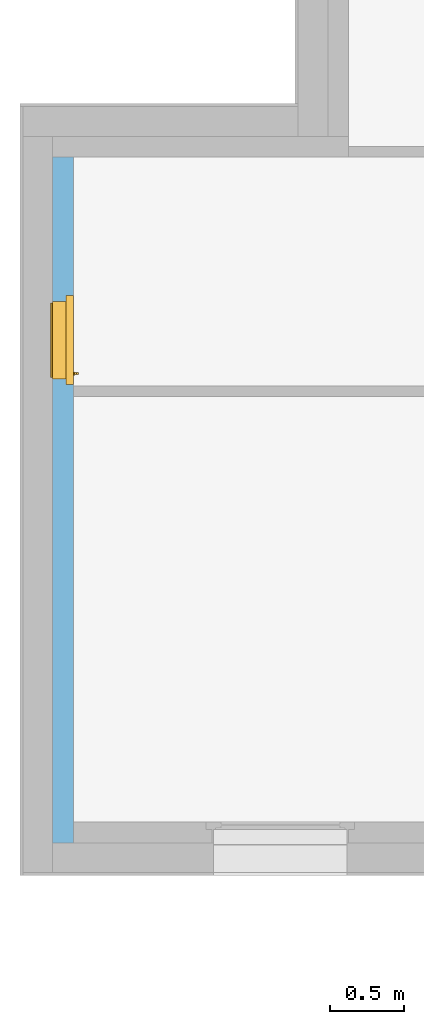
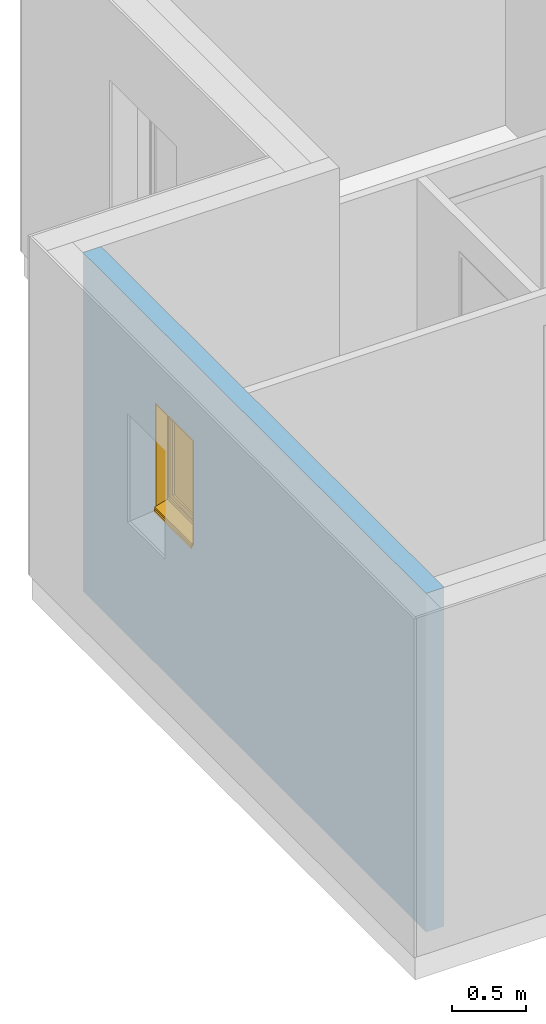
"""IFC2X3 building model written with IfcOpenShell, lengths in centimetres."""

import ifcopenshell
import ifcopenshell.guid

model = None  # the IFC model being written
_history = None  # IfcOwnerHistory: only IFC2X3 demands one
_inside = {}  # id of a spatial element -> (the spatial element, [elements in it])
_under = {}  # id of a project, library or spatial element -> (it, [spatial elements below it])
_declared = {}  # id of a project -> (the project, [libraries it declares])
_typed = {}  # id of a type object -> (the type object, [elements of that type])
_made_of = {}  # id of a material, layer set ... -> (it, [elements and type objects made of it])


def new_model(schema):
    """Start an empty IFC model of exactly this schema.

    Asked for "IFC4X3", IfcOpenShell would pick the latest addendum, in which some entities
    have other attributes; the version numbers below select the first issue.
    IFC2X3 requires an IfcOwnerHistory on every rooted entity: one is made here for all.
    """
    global model, _history
    if schema == "IFC4X3":
        model = ifcopenshell.file(schema_version=(4, 3, 0, 0))
    else:
        model = ifcopenshell.file(schema=schema)
    _inside.clear()
    _under.clear()
    _declared.clear()
    _typed.clear()
    _made_of.clear()
    _history = None
    if model.schema == "IFC2X3":
        org = make("IfcOrganization", Name="unknown")
        user = make(
            "IfcPersonAndOrganization",
            ThePerson=make("IfcPerson", FamilyName="unknown"),
            TheOrganization=org,
        )
        app = make(
            "IfcApplication",
            ApplicationDeveloper=org,
            Version="unknown",
            ApplicationFullName="unknown",
            ApplicationIdentifier="unknown",
        )
        _history = make(
            "IfcOwnerHistory",
            OwningUser=user,
            OwningApplication=app,
            ChangeAction="ADDED",
            CreationDate=0,
        )
    return model


def make(cls, **values):
    """One entity of the class cls with the attributes given. An attribute that is None is left unset."""
    return model.create_entity(
        cls, **{name: value for name, value in values.items() if value is not None}
    )


def entity(cls, *values):
    """Any entity or typed value of the class cls, its attributes in the order of the schema. None: left unset."""
    e = model.create_entity(cls)
    for i, value in enumerate(values):
        if value is not None:
            e[i] = value
    return e


def rooted(cls, **values):
    """An entity with a GlobalId (a new one), such as an element, a storey or a relation."""
    return make(cls, GlobalId=ifcopenshell.guid.new(), OwnerHistory=_history, **values)


def si_unit(unit_type, name, prefix=None):
    """IfcSIUnit, for example si_unit("LENGTHUNIT", "METRE", prefix="MILLI")."""
    return make("IfcSIUnit", UnitType=unit_type, Prefix=prefix, Name=name)


def converted_unit(unit_type, name, factor, base, dimensions=None, offset=None):
    """IfcConversionBasedUnit, such as the inch: factor (a typed value) times the base unit."""
    return make(
        "IfcConversionBasedUnit"
        if offset is None
        else "IfcConversionBasedUnitWithOffset",
        ConversionOffset=offset,
        Dimensions=None
        if dimensions is None
        else entity("IfcDimensionalExponents", *dimensions),
        UnitType=unit_type,
        Name=name,
        ConversionFactor=make(
            "IfcMeasureWithUnit", ValueComponent=factor, UnitComponent=base
        ),
    )


def derived_unit(unit_type, elements):
    """IfcDerivedUnit: a product of units, each with its exponent."""
    return make(
        "IfcDerivedUnit",
        Elements=[
            make("IfcDerivedUnitElement", Unit=unit, Exponent=power)
            for unit, power in elements
        ],
        UnitType=unit_type,
    )


def assignment(units):
    """IfcUnitAssignment: the units of a project."""
    return None if units is None else make("IfcUnitAssignment", Units=units)


def point(xyz):
    """IfcCartesianPoint."""
    return None if xyz is None else make("IfcCartesianPoint", Coordinates=xyz)


def direction(xyz):
    """IfcDirection."""
    return None if xyz is None else make("IfcDirection", DirectionRatios=xyz)


def frame(location, z_axis=None, x_axis=None):
    """IfcAxis2Placement3D, a coordinate frame: its origin and axes. An axis left out is left unset."""
    return make(
        "IfcAxis2Placement3D",
        Location=point(location),
        Axis=direction(z_axis),
        RefDirection=direction(x_axis),
    )


def frame_2d(location, x_axis=None):
    """IfcAxis2Placement2D, a coordinate frame in the plane: its origin and x axis."""
    return make(
        "IfcAxis2Placement2D", Location=point(location), RefDirection=direction(x_axis)
    )


def origin():
    """The frame at (0, 0, 0) with its axes left unset."""
    return frame((0.0, 0.0, 0.0))


def place(relative_to, where):
    """IfcLocalPlacement: puts the frame where relative to a parent placement (None: the world)."""
    return make(
        "IfcLocalPlacement", PlacementRelTo=relative_to, RelativePlacement=where
    )


def context(
    kind, dimensions, precision=None, world=None, true_north=None, identifier=None
):
    """IfcGeometricRepresentationContext, for example the 3D "Model" context."""
    return make(
        "IfcGeometricRepresentationContext",
        ContextIdentifier=identifier,
        ContextType=kind,
        CoordinateSpaceDimension=dimensions,
        Precision=precision,
        WorldCoordinateSystem=world,
        TrueNorth=true_north,
    )


def subcontext(parent, identifier, kind, view, scale=None):
    """IfcGeometricRepresentationSubContext, for example "Body" below "Model"."""
    return make(
        "IfcGeometricRepresentationSubContext",
        ContextIdentifier=identifier,
        ContextType=kind,
        ParentContext=parent,
        TargetScale=scale,
        TargetView=view,
    )


def project(units=None, contexts=None):
    """IfcProject with its units and contexts."""
    return rooted(
        "IfcProject",
        Name="project",
        RepresentationContexts=contexts,
        UnitsInContext=assignment(units),
    )


def spatial(cls, under=None, at=None, **own):
    """A site, building, storey or space (cls), placed at a placement, below another one or the project."""
    s = rooted(cls, ObjectPlacement=at, **own)
    if under is not None:
        _under.setdefault(under.id(), (under, []))[1].append(s)
    return s


def profile(cls, at=None, kind="AREA", **sizes):
    """A parametric profile (cls). Its sizes go by their IFC names, for example OverallWidth=200.0."""
    return make(cls, ProfileType=kind, Position=at, **sizes)


def rectangle(**sizes):
    """IfcRectangleProfileDef."""
    return profile("IfcRectangleProfileDef", **sizes)


def extrude(swept, where, along, depth):
    """IfcExtrudedAreaSolid: the profile swept, set in the frame where, extruded along a direction by depth."""
    return make(
        "IfcExtrudedAreaSolid",
        SweptArea=swept,
        Position=where,
        ExtrudedDirection=direction(along),
        Depth=depth,
    )


def faces_of(points, faces, orient=None, outer=None):
    """IfcFace entities. A face is a list of loops; a loop is a list of indices into points, from 0.

    orient and outer hold one flag for each loop. By default every Orientation is true, the
    first loop of a face is its IfcFaceOuterBound and the others are IfcFaceBound.
    """
    made = []
    for i, loops in enumerate(faces):
        bounds = []
        for j, loop in enumerate(loops):
            is_outer = j == 0 if outer is None else outer[i][j]
            bounds.append(
                make(
                    "IfcFaceOuterBound" if is_outer else "IfcFaceBound",
                    Bound=make("IfcPolyLoop", Polygon=[points[k] for k in loop]),
                    Orientation=True if orient is None else orient[i][j],
                )
            )
        made.append(make("IfcFace", Bounds=bounds))
    return made


def faceted_brep(points, faces, orient=None, outer=None, voids=None):
    """IfcFacetedBrep: a solid bounded by flat faces; with voids (closed shells), ...WithVoids."""
    shared = [point(p) for p in points]
    hull = make("IfcClosedShell", CfsFaces=faces_of(shared, faces, orient, outer))
    if voids is None:
        return make("IfcFacetedBrep", Outer=hull)
    return make(
        "IfcFacetedBrepWithVoids",
        Outer=hull,
        Voids=[
            make(cls, CfsFaces=faces_of(shared, fs, o, b)) for cls, fs, o, b in voids
        ],
    )


def shape(context_of_items, identifier, shape_type, items):
    """IfcShapeRepresentation: the items that make up one representation, for example the "Body"."""
    return make(
        "IfcShapeRepresentation",
        ContextOfItems=context_of_items,
        RepresentationIdentifier=identifier,
        RepresentationType=shape_type,
        Items=items,
    )


def source(mapping_origin, context_of_items, identifier, shape_type, items):
    """IfcRepresentationMap: a shape defined once, which mapped items show again and again."""
    return make(
        "IfcRepresentationMap",
        MappingOrigin=mapping_origin,
        MappedRepresentation=shape(context_of_items, identifier, shape_type, items),
    )


def transform(
    local_origin,
    x_axis=None,
    y_axis=None,
    z_axis=None,
    scale=None,
    scale2=None,
    scale3=None,
    uniform=True,
):
    """IfcCartesianTransformationOperator3D, or its non-uniform kind. x_axis, y_axis, z_axis: its Axis1, 2, 3."""
    if uniform:
        return make(
            "IfcCartesianTransformationOperator3D",
            Axis1=direction(x_axis),
            Axis2=direction(y_axis),
            LocalOrigin=point(local_origin),
            Scale=scale,
            Axis3=direction(z_axis),
        )
    return make(
        "IfcCartesianTransformationOperator3DnonUniform",
        Axis1=direction(x_axis),
        Axis2=direction(y_axis),
        LocalOrigin=point(local_origin),
        Scale=scale,
        Axis3=direction(z_axis),
        Scale2=scale2,
        Scale3=scale3,
    )


def mapped(mapping_source, mapping_target):
    """IfcMappedItem: shows the shape of a source again, moved by a transform."""
    return make(
        "IfcMappedItem", MappingSource=mapping_source, MappingTarget=mapping_target
    )


def material(Name=None, Category=None):
    """IfcMaterial."""
    return make("IfcMaterial", Name=Name, Category=Category)


def material_list(materials):
    """IfcMaterialList."""
    return make("IfcMaterialList", Materials=materials)


def layer(
    of_material, thickness, ventilated=None, Name=None, Category=None, Priority=None
):
    """IfcMaterialLayer: one layer of a wall or slab, of a material (None: an air gap)."""
    return make(
        "IfcMaterialLayer",
        Material=of_material,
        LayerThickness=thickness,
        IsVentilated=ventilated,
        Name=Name,
        Category=Category,
        Priority=Priority,
    )


def layer_set(layers, Name=None):
    """IfcMaterialLayerSet."""
    return make("IfcMaterialLayerSet", MaterialLayers=layers, LayerSetName=Name)


def layer_usage(for_layer_set, set_direction, sense, offset, extent=None):
    """IfcMaterialLayerSetUsage: how a layer set lies in its element."""
    return make(
        "IfcMaterialLayerSetUsage",
        ForLayerSet=for_layer_set,
        LayerSetDirection=set_direction,
        DirectionSense=sense,
        OffsetFromReferenceLine=offset,
        ReferenceExtent=extent,
    )


def made_of(thing, what):
    """Note that an element or type object is made of a material, layer set ...; save() writes the relation."""
    if what is not None:
        _made_of.setdefault(what.id(), (what, []))[1].append(thing)
    return thing


def type_object(cls, material=None, **own):
    """A type object (cls), such as IfcWallType, which elements share."""
    return made_of(rooted(cls, **own), material)


def type_shapes(of_type, sources):
    """Give a type object the sources (RepresentationMaps) that its elements show as mapped items."""
    of_type.RepresentationMaps = sources


def element(
    cls,
    number,
    at=None,
    inside=None,
    cuts=None,
    type_object=None,
    material=None,
    context=None,
    identifier="Body",
    shape_type=None,
    held_by="IfcProductDefinitionShape",
    body=None,
    shapes=None,
    **own,
):
    """One element of the class cls, such as IfcWall. Its Tag is "e" and its number.

    at: its placement. inside: the storey or other place that contains it. cuts: it is an
    opening in that element (IfcRelVoidsElement). A single representation is given by context,
    identifier, shape_type and body (its items); several are given by shapes. held_by: the class
    of the entity that holds the representations. save() writes the other relations.
    """
    e = rooted(cls, Tag="e%d" % number, ObjectPlacement=at, **own)
    if body is not None:
        shapes = [shape(context, identifier, shape_type, body)]
    if shapes is not None:
        e.Representation = make(held_by, Representations=shapes)
    if inside is not None:
        _inside.setdefault(inside.id(), (inside, []))[1].append(e)
    if cuts is not None:
        rooted(
            "IfcRelVoidsElement", RelatingBuildingElement=cuts, RelatedOpeningElement=e
        )
    if type_object is not None:
        _typed.setdefault(type_object.id(), (type_object, []))[1].append(e)
    return made_of(e, material)


def fill(opening, filler):
    """IfcRelFillsElement: the door or window that sits in an opening."""
    return rooted(
        "IfcRelFillsElement",
        RelatingOpeningElement=opening,
        RelatedBuildingElement=filler,
    )


def aggregate(whole, parts):
    """IfcRelAggregates: a whole, such as a stair, and the parts it consists of."""
    return rooted("IfcRelAggregates", RelatingObject=whole, RelatedObjects=parts)


def save(model, path):
    """Write the relations noted so far, then the file.

    IfcRelAggregates (storeys below a building ...), IfcRelContainedInSpatialStructure (elements
    in a storey), IfcRelDefinesByType, IfcRelAssociatesMaterial and IfcRelDeclares: one each for
    every whole, place, type object, material and project.
    """
    for whole, parts in _under.values():
        aggregate(whole, parts)
    for where, things in _inside.values():
        rooted(
            "IfcRelContainedInSpatialStructure",
            RelatedElements=things,
            RelatingStructure=where,
        )
    for kind, things in _typed.values():
        rooted("IfcRelDefinesByType", RelatedObjects=things, RelatingType=kind)
    for what, things in _made_of.values():
        rooted("IfcRelAssociatesMaterial", RelatedObjects=things, RelatingMaterial=what)
    for by, libraries in _declared.values():
        rooted("IfcRelDeclares", RelatingContext=by, RelatedDefinitions=libraries)
    model.write(path)


model = new_model("IFC2X3")

# Units and contexts
model_context = context("Model", 3, precision=0.001, world=origin(), true_north=direction((6.123031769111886e-17, 1.0)))
body_context = subcontext(model_context, "Body", "Model", "MODEL_VIEW")
ifc_project = project(units=[si_unit("LENGTHUNIT", "METRE", prefix="CENTI"), si_unit("AREAUNIT", "SQUARE_METRE"), si_unit("VOLUMEUNIT", "CUBIC_METRE"), converted_unit("PLANEANGLEUNIT", "DEGREE", entity("IfcRatioMeasure", 0.017453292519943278), si_unit("PLANEANGLEUNIT", "RADIAN"), dimensions=[0, 0, 0, 0, 0, 0, 0]), si_unit("MASSUNIT", "GRAM", prefix="KILO"), derived_unit("MASSDENSITYUNIT", [(si_unit("MASSUNIT", "GRAM", prefix="KILO"), 1), (si_unit("LENGTHUNIT", "METRE"), -3)]), derived_unit("MOMENTOFINERTIAUNIT", [(si_unit("LENGTHUNIT", "METRE"), 4)]), si_unit("TIMEUNIT", "SECOND"), si_unit("FREQUENCYUNIT", "HERTZ"), si_unit("THERMODYNAMICTEMPERATUREUNIT", "DEGREE_CELSIUS"), derived_unit("THERMALTRANSMITTANCEUNIT", [(si_unit("MASSUNIT", "GRAM", prefix="KILO"), 1), (si_unit("THERMODYNAMICTEMPERATUREUNIT", "KELVIN"), -1), (si_unit("TIMEUNIT", "SECOND"), -3)]), derived_unit("VOLUMETRICFLOWRATEUNIT", [(si_unit("LENGTHUNIT", "METRE"), 3), (si_unit("TIMEUNIT", "SECOND"), -1)]), derived_unit("MASSFLOWRATEUNIT", [(si_unit("MASSUNIT", "GRAM", prefix="KILO"), 1), (si_unit("TIMEUNIT", "SECOND"), -1)]), derived_unit("ROTATIONALFREQUENCYUNIT", [(si_unit("TIMEUNIT", "SECOND"), -1)]), si_unit("ELECTRICCURRENTUNIT", "AMPERE"), si_unit("ELECTRICVOLTAGEUNIT", "VOLT"), si_unit("POWERUNIT", "WATT"), si_unit("FORCEUNIT", "NEWTON", prefix="KILO"), si_unit("ILLUMINANCEUNIT", "LUX"), si_unit("LUMINOUSFLUXUNIT", "LUMEN"), si_unit("LUMINOUSINTENSITYUNIT", "CANDELA"), derived_unit("USERDEFINED", [(si_unit("MASSUNIT", "GRAM", prefix="KILO"), -1), (si_unit("LENGTHUNIT", "METRE"), -2), (si_unit("TIMEUNIT", "SECOND"), 3), (si_unit("LUMINOUSFLUXUNIT", "LUMEN"), 1)]), derived_unit("SOUNDPOWERUNIT", [(si_unit("MASSUNIT", "GRAM", prefix="KILO"), 1), (si_unit("LENGTHUNIT", "METRE"), 2), (si_unit("TIMEUNIT", "SECOND"), -3)]), derived_unit("SOUNDPRESSUREUNIT", [(si_unit("MASSUNIT", "GRAM", prefix="KILO"), 1), (si_unit("LENGTHUNIT", "METRE"), -1), (si_unit("TIMEUNIT", "SECOND"), -2)]), derived_unit("LINEARVELOCITYUNIT", [(si_unit("LENGTHUNIT", "METRE"), 1), (si_unit("TIMEUNIT", "SECOND"), -1)]), si_unit("PRESSUREUNIT", "PASCAL"), derived_unit("USERDEFINED", [(si_unit("LENGTHUNIT", "METRE"), -2), (si_unit("MASSUNIT", "GRAM", prefix="KILO"), 1), (si_unit("TIMEUNIT", "SECOND"), -2)]), derived_unit("LINEARFORCEUNIT", [(si_unit("MASSUNIT", "GRAM", prefix="KILO"), 1), (si_unit("LENGTHUNIT", "METRE"), 1), (si_unit("TIMEUNIT", "SECOND"), -2), (si_unit("LENGTHUNIT", "METRE"), -1)]), derived_unit("PLANARFORCEUNIT", [(si_unit("MASSUNIT", "GRAM", prefix="KILO"), 1), (si_unit("LENGTHUNIT", "METRE"), 1), (si_unit("TIMEUNIT", "SECOND"), -2), (si_unit("LENGTHUNIT", "METRE"), -2)])], contexts=[model_context])

# Site, building, storey
site_placement = place(None, origin())
site = spatial("IfcSite", under=ifc_project, at=site_placement, Name="Default", CompositionType="ELEMENT")
building_placement = place(site_placement, origin())
building = spatial("IfcBuilding", under=site, at=building_placement, CompositionType="ELEMENT")
storey_1_placement = place(building_placement, frame((0.0, 0.0, -8.0)))
storey_1 = spatial("IfcBuildingStorey", under=building, at=storey_1_placement, Name="-0.08_Dessus plancher", CompositionType="ELEMENT", Elevation=-8.000000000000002)

# Wall, opening
ifc_material_1 = material(Name="Isolant rigide")
ifc_layer = layer(ifc_material_1, 14.0)
ifc_layer_set = layer_set([ifc_layer], Name="Mur de base:Doublage 14")
ifc_layer_usage = layer_usage(ifc_layer_set, "AXIS2", "NEGATIVE", 7.0)
wall_type = type_object("IfcWallType", Name="Mur de base:Doublage 14", PredefinedType="STANDARD", material=ifc_layer_set)
wall_placement = place(storey_1_placement, frame((-1604.8253630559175, 105.60429608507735, 0.0), z_axis=(0.0, 0.0, 1.0), x_axis=(0.0, 1.0, 0.0)))
wall = element("IfcWallStandardCase", 1, at=wall_placement, inside=storey_1, type_object=wall_type, material=ifc_layer_usage, Name="Mur de base:Doublage 14", ObjectType="Mur de base:Doublage 14", context=body_context, shape_type="SweptSolid", body=[
    extrude(rectangle(XDim=461.0000000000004, YDim=14.000000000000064, at=frame_2d((230.5000000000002, -1.2079226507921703e-13), x_axis=(-1.0, 0.0))), origin(), (0.0, 0.0, 1.0), 278.00000000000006),
])
opening_placement = place(wall_placement, frame((308.0, 50.0, 121.77030941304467), z_axis=(0.0, 0.0, 1.0), x_axis=(0.0, -1.0, 0.0)))
opening = element("IfcOpeningElement", 2, at=opening_placement, cuts=wall, Name="Mur de base:Doublage 14", ObjectType="Opening", context=body_context, shape_type="Brep", body=[
    faceted_brep([(45.0, 5.0, 6.229690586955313), (43.0, 5.0, 6.229690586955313), (43.0, 5.0, 91.22969058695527), (0.0, 5.0, 91.22969058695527), (0.0, 5.0, 0.0), (45.0, 5.0, 4.729690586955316), (100.0, 55.0, 6.229690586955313), (57.0, 55.0, 6.229690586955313), (57.0, 55.0, 91.22969058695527), (100.0, 55.0, 91.22969058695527), (100.0, 5.0, 6.229690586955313), (57.0, 5.0, 6.229690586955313), (57.0, 0.0, 6.229690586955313), (52.0, 0.0, 6.229690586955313), (52.0, 4.0, 6.229690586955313), (43.0, 4.0, 6.229690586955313), (45.0, 55.0, 6.229690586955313), (43.0, 55.0, 6.229690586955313), (43.0, 56.0, 6.229690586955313), (52.0, 56.0, 6.229690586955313), (52.0, 60.0, 6.229690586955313), (57.0, 60.0, 6.229690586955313), (100.0, 5.0, 91.22969058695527), (43.0, 55.0, 91.22969058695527), (0.0, 55.0, 91.22969058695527), (0.0, 55.0, 0.0), (45.0, 55.0, 4.729690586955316), (57.0, 0.0, 96.22969058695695), (52.0, 0.0, 96.22969058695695), (52.0, 60.0, 96.22969058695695), (52.0, 56.0, 92.22969058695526), (52.0, 4.0, 92.22969058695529), (43.0, 4.0, 92.22969058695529), (43.0, 56.0, 92.22969058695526), (57.0, 5.0, 91.22969058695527), (57.0, 60.0, 96.22969058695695)], [[[0, 1, 2, 3, 4, 5]], [[6, 7, 8, 9]], [[10, 11, 12, 13, 14, 15, 1, 0, 16, 17, 18, 19, 20, 21, 7, 6]], [[10, 6, 9, 22]], [[3, 2, 23, 24]], [[3, 24, 25, 4]], [[4, 25, 26, 5]], [[5, 26, 16, 0]], [[12, 27, 28, 13]], [[13, 28, 29, 20, 19, 30, 31, 14]], [[14, 31, 32, 15]], [[15, 32, 33, 18, 17, 23, 2, 1]], [[11, 34, 8, 7, 21, 35, 27, 12]], [[27, 35, 29, 28]], [[30, 33, 32, 31]], [[29, 35, 21, 20]], [[19, 18, 33, 30]], [[9, 8, 34, 22]], [[24, 23, 17, 16, 26, 25]], [[22, 34, 11, 10]]]),
])

# Storey
storey_2_placement = place(building_placement, origin())
storey_2 = spatial("IfcBuildingStorey", under=building, at=storey_2_placement, Name="1_Rez-de-chaussée", CompositionType="ELEMENT", Elevation=-7.93413063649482e-11)

# Window
ifc_material_2 = material(Name="Fenêtre - Poignée")
ifc_material_3 = material(Name="Fenêtre - Appui")
ifc_material_4 = material(Name="Fenêtre - Vitrage")
ifc_material_5 = material(Name="Fenêtre - Cadre")
ifc_material_list_1 = material_list([ifc_material_2, ifc_material_2, ifc_material_3, ifc_material_3, ifc_material_3, ifc_material_4, ifc_material_5, ifc_material_5, ifc_material_5])
ifc_material_list_2 = material_list([ifc_material_2, ifc_material_2, ifc_material_3, ifc_material_3, ifc_material_3, ifc_material_4, ifc_material_5, ifc_material_5, ifc_material_5])
window_style = type_object("IfcWindowStyle", Name="1 Vantail - Droit:0.50 m x 0.85 m", ConstructionType="NOTDEFINED", OperationType="NOTDEFINED", ParameterTakesPrecedence=False, Sizeable=False, material=ifc_material_list_2)
shared_shape = source(origin(), body_context, "Body", "Brep", [
    faceted_brep([(8.064600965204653, -57.60000000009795, 68.43308351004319), (8.203392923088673, -57.60000000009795, 68.29429155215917), (8.203392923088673, -57.60000000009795, 67.16292070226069), (8.066769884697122, -57.60000000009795, 67.02629766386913), (6.933230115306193, -57.60000000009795, 67.02629766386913), (6.79660707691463, -57.60000000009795, 67.16292070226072), (6.79660707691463, -57.60000000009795, 68.29429155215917), (6.935399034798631, -57.60000000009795, 68.43308351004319), (8.064600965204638, -58.89135488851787, 68.43308351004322), (8.203392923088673, -58.833865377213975, 68.29429155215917), (8.203392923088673, -60.164600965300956, 66.9635559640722), (8.203392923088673, -60.164600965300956, 58.22969058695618), (8.203392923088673, -59.03323011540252, 58.22969058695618), (8.203392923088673, -59.03323011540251, 66.49492681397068), (8.203392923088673, -58.365236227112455, 67.16292070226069), (8.066769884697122, -58.308645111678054, 67.02629766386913), (6.933230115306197, -58.308645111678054, 67.02629766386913), (6.79660707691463, -58.36523622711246, 67.16292070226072), (6.79660707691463, -59.03323011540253, 66.49492681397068), (6.79660707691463, -59.03323011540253, 58.22969058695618), (6.79660707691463, -60.16460096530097, 58.22969058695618), (6.79660707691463, -60.16460096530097, 66.9635559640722), (6.79660707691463, -58.833865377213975, 68.29429155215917), (6.935399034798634, -58.89135488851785, 68.43308351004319), (8.064600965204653, -60.303392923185, 67.02104547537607), (8.066769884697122, -58.89660707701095, 66.43833569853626), (6.933230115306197, -58.89660707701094, 66.43833569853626), (6.935399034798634, -60.303392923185, 67.02104547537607), (8.064600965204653, -60.303392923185, 58.22969058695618), (6.935399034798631, -60.303392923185, 58.22969058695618), (6.933230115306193, -58.896607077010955, 58.22969058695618), (8.066769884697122, -58.896607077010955, 58.22969058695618)], [[[0, 1, 2, 3, 4, 5, 6, 7]], [[1, 0, 8, 9]], [[2, 1, 9, 10, 11, 12, 13, 14]], [[3, 2, 14, 15]], [[4, 3, 15, 16]], [[5, 4, 16, 17]], [[6, 5, 17, 18, 19, 20, 21, 22]], [[7, 6, 22, 23]], [[0, 7, 23, 8]], [[9, 8, 24, 10]], [[15, 14, 13, 25]], [[16, 15, 25, 26]], [[17, 16, 26, 18]], [[23, 22, 21, 27]], [[8, 23, 27, 24]], [[28, 29, 20, 19, 30, 31, 12, 11]], [[10, 24, 28, 11]], [[25, 13, 12, 31]], [[26, 25, 31, 30]], [[18, 26, 30, 19]], [[27, 21, 20, 29]], [[24, 27, 29, 28]]]),
    faceted_brep([(8.200000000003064, -57.60000000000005, 70.22969058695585), (6.80000000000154, -57.60000000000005, 70.22969058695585), (6.300000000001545, -57.60000000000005, 69.72969058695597), (6.300000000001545, -57.60000000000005, 62.72969058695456), (6.8000000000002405, -57.60000000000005, 62.22969058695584), (8.200000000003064, -57.60000000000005, 62.22969058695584), (8.70000000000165, -57.60000000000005, 62.72969058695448), (8.70000000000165, -57.60000000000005, 69.72969058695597), (8.200000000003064, -57.0, 70.22969058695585), (8.70000000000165, -57.0, 69.72969058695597), (8.70000000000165, -57.0, 62.72969058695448), (8.200000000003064, -57.0, 62.22969058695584), (6.8000000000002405, -57.0, 62.22969058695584), (6.300000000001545, -57.0, 62.72969058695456), (6.300000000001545, -57.0, 69.72969058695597), (6.80000000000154, -57.0, 70.22969058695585)], [[[0, 1, 2, 3, 4, 5, 6, 7]], [[8, 9, 10, 11, 12, 13, 14, 15]], [[1, 0, 8, 15]], [[2, 1, 15, 14]], [[3, 2, 14, 13]], [[4, 3, 13, 12]], [[5, 4, 12, 11]], [[6, 5, 11, 10]], [[7, 6, 10, 9]], [[0, 7, 9, 8]]]),
    faceted_brep([(55.0, -41.499999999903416, 4.887346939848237), (55.0, -44.49999999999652, 5.202659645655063), (55.0, -44.49999999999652, 6.229690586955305), (55.0, -45.0, 6.229690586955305), (55.0, -45.0, 4.729690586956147), (55.0, -42.0, 4.4143778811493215), (55.0, -42.0, 3.384327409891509), (55.0, -41.499999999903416, 3.331775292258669), (5.0, -41.499999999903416, 4.887346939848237), (5.0, -41.499999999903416, 3.331775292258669), (5.0, -42.0, 3.384327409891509), (5.0, -42.0, 4.4143778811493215), (5.0, -45.0, 4.729690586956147), (5.0, -45.0, 6.229690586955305), (5.0, -44.49999999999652, 6.229690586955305), (5.0, -44.49999999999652, 5.202659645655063)], [[[0, 1, 2, 3, 4, 5, 6, 7]], [[8, 9, 10, 11, 12, 13, 14, 15]], [[1, 0, 8, 15]], [[2, 1, 15, 14]], [[3, 2, 14, 13]], [[4, 3, 13, 12]], [[5, 4, 12, 11]], [[6, 5, 11, 10]], [[7, 6, 10, 9]], [[0, 7, 9, 8]]]),
    faceted_brep([(5.0, -41.49999999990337, 5.029939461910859), (5.0, -41.49999999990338, 4.887346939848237), (5.0, -44.499999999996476, 5.202659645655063), (5.0, -44.499999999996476, 5.7054137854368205), (5.0, -41.85818861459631, 5.427748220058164), (5.0, -41.602742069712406, 5.2975917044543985), (5.500000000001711, -44.499999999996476, 5.7054137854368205), (5.500000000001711, -44.499999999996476, 5.202659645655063), (5.500000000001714, -41.49999999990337, 4.887346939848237), (5.500000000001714, -41.499999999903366, 5.029939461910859), (5.500000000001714, -41.602742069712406, 5.2975917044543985), (5.500000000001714, -41.8581886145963, 5.427748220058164)], [[[0, 1, 2, 3, 4, 5]], [[6, 7, 8, 9, 10, 11]], [[2, 1, 8, 7]], [[3, 2, 7, 6]], [[4, 3, 6, 11]], [[4, 11, 10, 5]], [[10, 9, 0, 5]], [[1, 0, 9, 8]]]),
    faceted_brep([(54.500000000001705, -41.49999999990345, 5.029939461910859), (54.500000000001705, -41.49999999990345, 4.887346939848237), (54.5000000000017, -44.499999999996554, 5.202659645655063), (54.5000000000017, -44.499999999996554, 5.7054137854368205), (54.500000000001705, -41.85818861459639, 5.427748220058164), (54.500000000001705, -41.6027420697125, 5.2975917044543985), (55.0, -44.499999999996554, 5.7054137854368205), (55.0, -44.499999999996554, 5.202659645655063), (55.0, -41.49999999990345, 4.887346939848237), (55.0, -41.49999999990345, 5.029939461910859), (55.0, -41.6027420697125, 5.2975917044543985), (55.0, -41.85818861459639, 5.427748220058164)], [[[0, 1, 2, 3, 4, 5]], [[6, 7, 8, 9, 10, 11]], [[2, 1, 8, 7]], [[3, 2, 7, 6]], [[4, 3, 6, 11]], [[4, 11, 10, 5]], [[10, 9, 0, 5]], [[1, 0, 9, 8]]]),
    faceted_brep([(10.0, -54.40000000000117, 16.22969058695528), (10.0, -54.40000000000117, 86.22969058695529), (50.0, -54.400000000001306, 86.22969058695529), (50.0, -54.400000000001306, 16.22969058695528), (10.0, -55.60000000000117, 16.22969058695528), (10.0, -55.60000000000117, 86.22969058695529), (50.0, -55.6000000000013, 86.22969058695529), (50.0, -55.6000000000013, 16.22969058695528)], [[[0, 1, 2, 3]], [[1, 0, 4, 5]], [[3, 2, 6, 7]], [[0, 3, 7, 4]], [[4, 7, 6, 5]], [[2, 1, 5, 6]]]),
    faceted_brep([(10.0, -53.0, 86.22969058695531), (10.0, -57.0, 86.22969058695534), (10.0, -57.0, 16.229690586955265), (10.0, -53.0, 16.22969058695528), (50.0, -57.0, 16.229690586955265), (50.0, -53.0, 16.229690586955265), (50.0, -57.0, 86.22969058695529), (55.0, -57.0, 11.229690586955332), (55.0, -57.0, 91.22969058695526), (5.0, -57.0, 91.22969058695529), (5.0, -57.0, 11.22969058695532), (50.0, -53.0, 86.22969058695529), (5.0, -53.0, 11.229690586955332), (5.0, -53.0, 91.22969058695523), (55.0, -53.0, 91.22969058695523), (55.0, -53.0, 11.22969058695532)], [[[0, 1, 2, 3]], [[3, 2, 4, 5]], [[2, 1, 6, 4], [7, 8, 9, 10]], [[5, 4, 6, 11]], [[5, 11, 0, 3], [12, 13, 14, 15]], [[9, 13, 12, 10]], [[10, 12, 15, 7]], [[7, 15, 14, 8]], [[11, 6, 1, 0]], [[8, 14, 13, 9]]], outer=[[True], [True], [False, True], [True], [False, True], [True], [True], [True], [True], [True]]),
    faceted_brep([(0.0, -57.0, 6.229690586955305), (0.0, -52.0, 6.229690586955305), (5.0, -52.0, 6.229690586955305), (5.0, -43.0, 6.229690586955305), (55.0, -43.0, 6.229690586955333), (55.0, -52.0, 6.229690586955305), (60.0, -52.0, 6.229690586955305), (60.0, -57.0, 6.229690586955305), (0.0, -57.0, 96.2296905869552), (0.0, -52.0, 96.22969058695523), (60.0, -52.0, 96.2296905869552), (55.0, -52.0, 10.167304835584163), (5.0, -52.0, 10.167304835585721), (6.500000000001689, -52.0, 89.72969058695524), (6.500000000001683, -52.0, 12.729690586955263), (53.50000000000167, -52.0, 12.729690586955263), (53.50000000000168, -52.0, 89.72969058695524), (5.0, -42.0, 7.48781291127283), (5.0, -42.0, 5.729690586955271), (5.0, -43.0, 5.729690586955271), (55.0, -43.0, 5.729690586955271), (55.0, -42.0, 5.729690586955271), (55.0, -42.0, 7.48781291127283), (60.0, -57.0, 96.2296905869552), (55.0, -57.0, 91.22969058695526), (55.0, -57.0, 11.229690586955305), (5.0, -57.0, 11.229690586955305), (5.0, -57.0, 91.22969058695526), (6.500000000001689, -53.0, 89.72969058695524), (6.500000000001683, -53.0, 12.729690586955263), (53.50000000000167, -53.0, 12.729690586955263), (53.50000000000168, -53.0, 89.72969058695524), (55.0, -53.0, 91.22969058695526), (5.0, -53.0, 91.22969058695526), (5.0, -53.0, 11.229690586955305), (55.0, -53.0, 11.229690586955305)], [[[0, 1, 2, 3, 4, 5, 6, 7]], [[1, 0, 8, 9]], [[1, 9, 10, 6, 5, 11, 12, 2], [13, 14, 15, 16]], [[12, 17, 18, 19, 3, 2]], [[3, 19, 20, 4]], [[4, 20, 21, 22, 11, 5]], [[6, 10, 23, 7]], [[0, 7, 23, 8], [24, 25, 26, 27]], [[13, 28, 29, 14]], [[29, 30, 15, 14]], [[31, 16, 15, 30]], [[17, 12, 11, 22]], [[32, 33, 34, 35], [28, 31, 30, 29]], [[34, 33, 27, 26]], [[26, 25, 35, 34]], [[24, 32, 35, 25]], [[18, 17, 22, 21]], [[19, 18, 21, 20]], [[13, 16, 31, 28]], [[33, 32, 24, 27]], [[10, 9, 8, 23]]]),
    faceted_brep([(5.0, -43.0, 6.229690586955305), (5.0, -52.0, 6.229690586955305), (4.0, -52.0, 6.229690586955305), (4.0, -43.0, 6.229690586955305), (5.0, -43.0, 91.22969058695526), (5.0, -52.0, 91.22969058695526), (55.0, -52.0, 91.22969058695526), (55.0, -52.0, 6.229690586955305), (56.0, -52.0, 6.229690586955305), (56.0, -52.0, 92.22969058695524), (4.0, -52.0, 92.22969058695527), (4.0, -43.0, 92.22969058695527), (56.0, -43.0, 92.22969058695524), (56.0, -43.0, 6.229690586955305), (55.0, -43.0, 6.229690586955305), (55.0, -43.0, 91.22969058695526)], [[[0, 1, 2, 3]], [[1, 0, 4, 5]], [[2, 1, 5, 6, 7, 8, 9, 10]], [[3, 2, 10, 11]], [[0, 3, 11, 12, 13, 14, 15, 4]], [[6, 15, 14, 7]], [[14, 13, 8, 7]], [[12, 9, 8, 13]], [[5, 4, 15, 6]], [[11, 10, 9, 12]]]),
])
type_shapes(window_style, [shared_shape])
window_placement = place(opening_placement, frame((0.0, 0.0, 0.0), z_axis=(0.0, 0.0, 1.0), x_axis=(0.0, 1.0, 0.0)))
window = element("IfcWindow", 3, at=window_placement, inside=storey_2, type_object=window_style, material=ifc_material_list_1, Name="1 Vantail - Droit:0.50 m x 0.85 m", ObjectType="1 Vantail - Droit:0.50 m x 0.85 m", OverallHeight=107.99999999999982, OverallWidth=60.000000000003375, context=body_context, shape_type="MappedRepresentation", body=[
    mapped(shared_shape, transform((0.0, 0.0, 0.0), scale=1.0)),
])

fill(opening, window)

save(model, "model.ifc")
